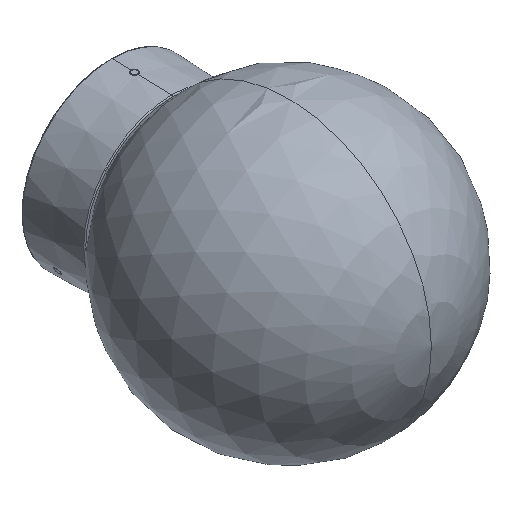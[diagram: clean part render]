
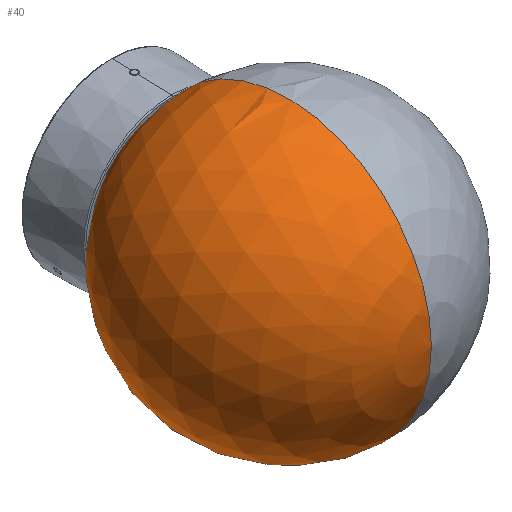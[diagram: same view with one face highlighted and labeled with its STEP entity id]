
A CAD part, isometric view. The second image highlights one B-rep face of the part: STEP entity #40.
In plain terms, the highlighted spherical face has radius 80 mm.
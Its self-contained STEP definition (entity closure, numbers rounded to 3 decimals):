
#1=CARTESIAN_POINT('',(0.,44.739,44.));
#2=DIRECTION('',(0.,1.,0.));
#3=DIRECTION('',(0.,0.,-1.));
#4=AXIS2_PLACEMENT_3D('',#1,#2,#3);
#6=CARTESIAN_POINT('',(0.,-22.691,44.));
#7=DIRECTION('',(-1.,0.,0.));
#8=DIRECTION('',(0.,0.843,-0.538));
#9=AXIS2_PLACEMENT_3D('',#6,#7,#8);
#11=CARTESIAN_POINT('',(0.,-22.691,44.));
#12=DIRECTION('',(1.,0.,0.));
#13=DIRECTION('',(0.,0.843,0.538));
#14=AXIS2_PLACEMENT_3D('',#11,#12,#13);
#21=CARTESIAN_POINT('',(0.,44.739,0.951));
#22=CARTESIAN_POINT('',(0.,-102.691,44.));
#23=VERTEX_POINT('',#21);
#24=VERTEX_POINT('',#22);
#25=CARTESIAN_POINT('',(0.,44.739,87.049));
#26=VERTEX_POINT('',#25);
#27=CARTESIAN_POINT('',(0.,-22.691,44.));
#28=DIRECTION('',(0.,1.,0.));
#29=DIRECTION('',(0.,0.,1.));
#30=AXIS2_PLACEMENT_3D('',#27,#28,#29);
#31=SPHERICAL_SURFACE('',#30,80.);
#33=ORIENTED_EDGE('',*,*,#32,.F.);
#35=ORIENTED_EDGE('',*,*,#34,.T.);
#37=ORIENTED_EDGE('',*,*,#36,.T.);
#38=EDGE_LOOP('',(#33,#35,#37));
#39=FACE_OUTER_BOUND('',#38,.F.);
#40=ADVANCED_FACE('',(#39),#31,.T.);
#5=CIRCLE('',#4,43.049);
#10=CIRCLE('',#9,80.);
#15=CIRCLE('',#14,80.);
#32=EDGE_CURVE('',#23,#24,#10,.T.);
#34=EDGE_CURVE('',#23,#26,#5,.T.);
#36=EDGE_CURVE('',#26,#24,#15,.T.);
